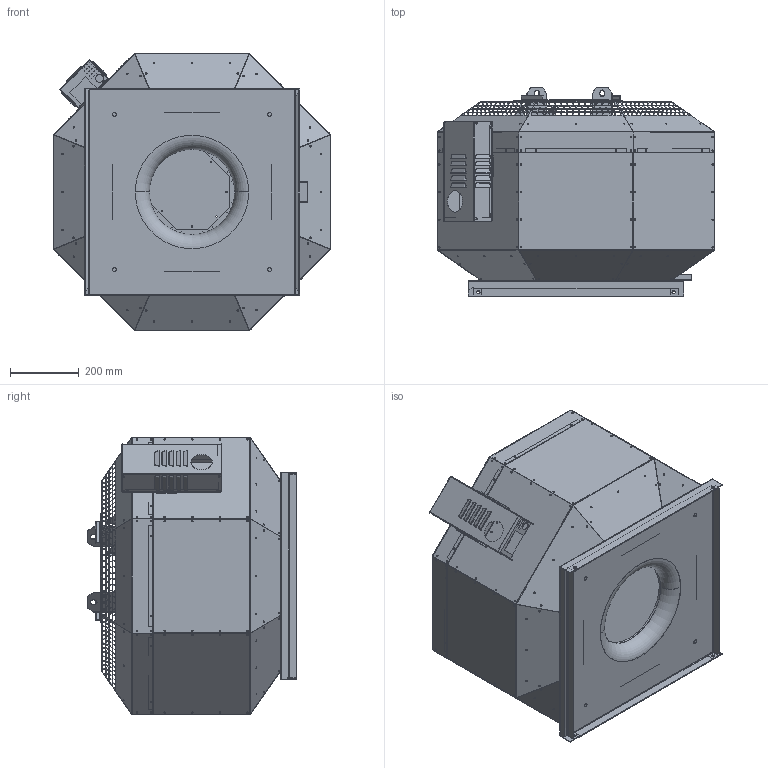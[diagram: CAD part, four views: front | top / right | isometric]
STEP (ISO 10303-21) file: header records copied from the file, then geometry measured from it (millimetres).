
FILE_DESCRIPTION (( 'STEP AP203' ), '1' );
FILE_NAME ('144621-00_DVNI400D4F430_step.step', '2018-08-01T06:13:23', ( '' ), ( '' ), 'SwSTEP 2.0', 'SolidWorks 2017', '' );
FILE_SCHEMA (( 'CONFIG_CONTROL_DESIGN' ));
Products named in the file (2): 144621-00_DVNI400D4F430_step
Bounding box: 804 x 605.01 x 804 mm (x, y, z)
Surface area: 5028493.9 mm2 (no closed solid volume)
Topology: 0 solids, 67 shells, 2089 faces, 13448 edges, 10605 vertices
Faces by surface type: plane 1713, cylinder 316, bspline 56, torus 4
Entity records: 145763 total; most frequent: CARTESIAN_POINT 42499, DIRECTION 18801, ORIENTED_EDGE 17981, EDGE_CURVE 13448, LINE 11385, VECTOR 11385, VERTEX_POINT 10605, EDGE_LOOP 4750
